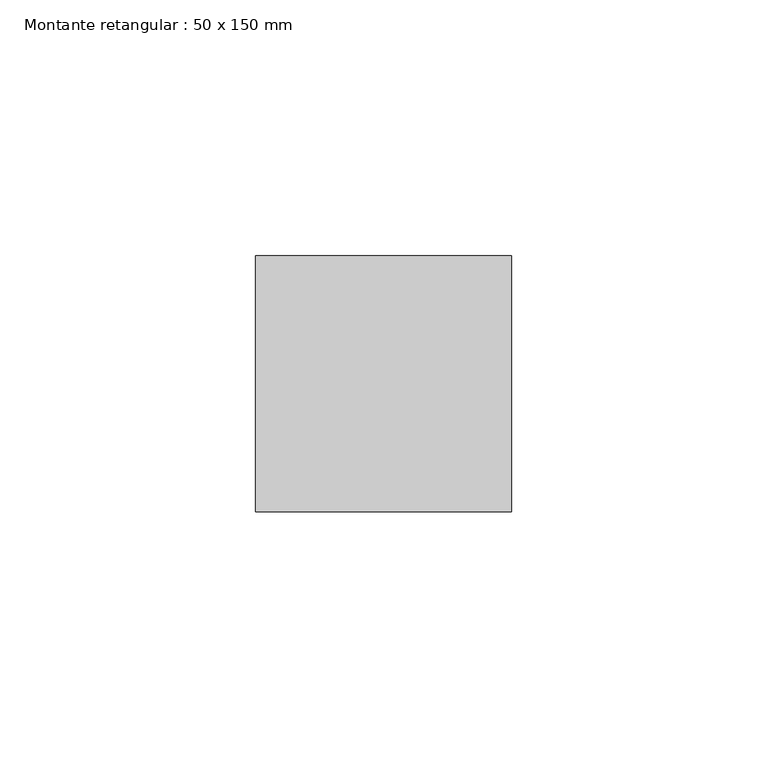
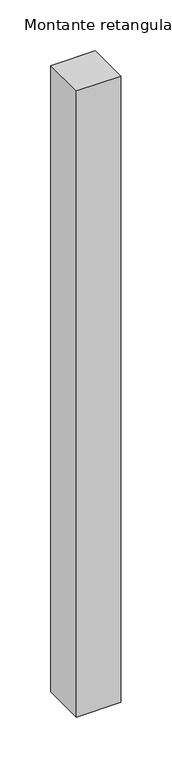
"""IFC4 building model written with IfcOpenShell, lengths in millimetres: member geometry, Montante retangular : 50 x 150 mm."""

from ifc_helpers import new_model, si_unit, frame, origin, place, context, project, spatial, polyline, outline, extrude, source, transform, mapped, element, save


def montante_retangular_50_x_150_mm_a5a5bff0(model_context):
    return source(origin(), model_context, "Body", "SweptSolid", [
        extrude(outline(polyline([(25.0, 25.0), (25.0, -25.0), (-25.0, -25.0), (-25.0, 25.0), (25.0, 25.0)])), frame((0.0, 0.0, -750.0), z_axis=(0.0, 0.0, 1.0), x_axis=(1.0, 0.0, 0.0)), (0.0, 0.0, 1.0), 750.0),
    ])


if __name__ == "__main__":
    model = new_model("IFC4")
    model_context = context("Model", 3, world=origin())
    ifc_project = project(units=[si_unit("LENGTHUNIT", "METRE", prefix="MILLI")], contexts=[model_context])
    site = spatial("IfcSite", under=ifc_project)
    building = spatial("IfcBuilding", under=site)
    placement = place(None, origin())
    montante_retangular_50_x_150_mm_shape = montante_retangular_50_x_150_mm_a5a5bff0(model_context)
    element("IfcMember", 1, ObjectType="Montante retangular : 50 x 150 mm", at=placement, inside=building, context=model_context, shape_type="MappedRepresentation", body=[
        mapped(montante_retangular_50_x_150_mm_shape, transform((0.0, 0.0, 0.0), x_axis=(1.0, 0.0, 0.0), y_axis=(0.0, 1.0, 0.0), z_axis=(0.0, 0.0, 1.0))),
    ])
    save(model, "model.ifc")
